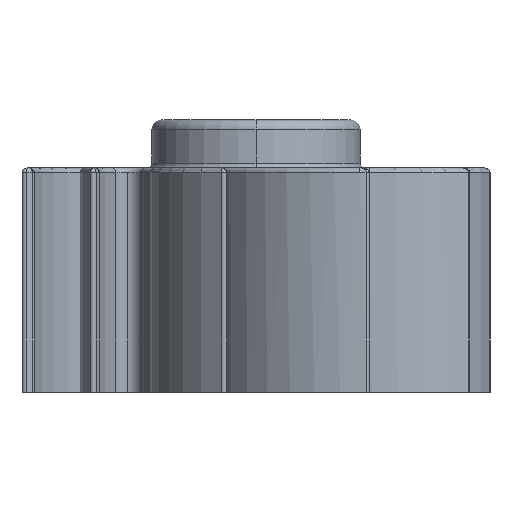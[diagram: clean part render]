
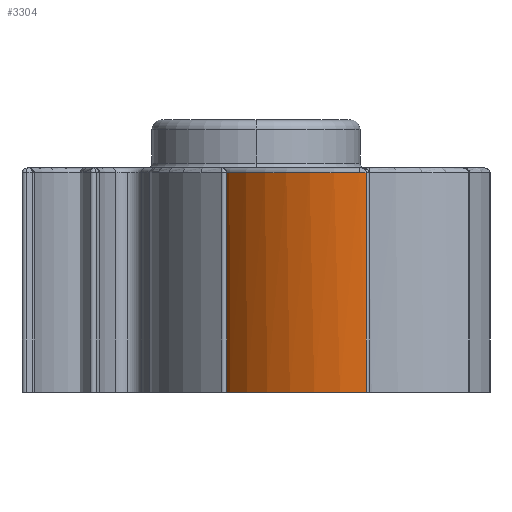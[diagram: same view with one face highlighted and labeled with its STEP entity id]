
A CAD part, left-side view. The second image highlights one B-rep face of the part: STEP entity #3304.
In plain terms, the highlighted cylindrical face has radius 10 mm (diameter 20 mm), a partial arc.
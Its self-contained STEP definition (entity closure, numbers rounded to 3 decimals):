
#279 = CARTESIAN_POINT ( 'NONE',  ( -3.135, -6.447, 12.1 ) ) ;
#316 = VERTEX_POINT ( 'NONE', #2098 ) ;
#417 = AXIS2_PLACEMENT_3D ( 'NONE', #1868, #4000, #6129 ) ;
#704 = ORIENTED_EDGE ( 'NONE', *, *, #2323, .T. ) ;
#722 = AXIS2_PLACEMENT_3D ( 'NONE', #279, #2428, #4556 ) ;
#733 = LINE ( 'NONE', #2350, #5925 ) ;
#966 = VECTOR ( 'NONE', #5935, 1000. ) ;
#1155 = CARTESIAN_POINT ( 'NONE',  ( -3.135, -6.447, -1.6 ) ) ;
#1244 = EDGE_CURVE ( 'NONE', #1836, #3052, #4918, .T. ) ;
#1675 = LINE ( 'NONE', #3801, #966 ) ;
#1836 = VERTEX_POINT ( 'NONE', #2816 ) ;
#1868 = CARTESIAN_POINT ( 'NONE',  ( -3.135, -6.447, 12.1 ) ) ;
#1901 = AXIS2_PLACEMENT_3D ( 'NONE', #4655, #6804, #2015 ) ;
#2015 = DIRECTION ( 'NONE',  ( -1., 0., 0. ) ) ;
#2059 = ORIENTED_EDGE ( 'NONE', *, *, #6162, .T. ) ;
#2098 = CARTESIAN_POINT ( 'NONE',  ( -7.638, 2.482, 12.1 ) ) ;
#2323 = EDGE_CURVE ( 'NONE', #3052, #5105, #733, .T. ) ;
#2350 = CARTESIAN_POINT ( 'NONE',  ( -13.126, -6.881, -1.6 ) ) ;
#2428 = DIRECTION ( 'NONE',  ( 0., 0., -1. ) ) ;
#2816 = CARTESIAN_POINT ( 'NONE',  ( -7.638, 2.482, -1.6 ) ) ;
#2922 = ORIENTED_EDGE ( 'NONE', *, *, #5108, .T. ) ;
#3036 = AXIS2_PLACEMENT_3D ( 'NONE', #1155, #3290, #5434 ) ;
#3052 = VERTEX_POINT ( 'NONE', #6154 ) ;
#3290 = DIRECTION ( 'NONE',  ( 0., 0., 1. ) ) ;
#3304 = ADVANCED_FACE ( 'NONE', ( #3817 ), #5948, .T. ) ;
#3495 = EDGE_LOOP ( 'NONE', ( #704, #2059, #2922, #5181, #6929 ) ) ;
#3747 = CIRCLE ( 'NONE', #722, 10. ) ;
#3801 = CARTESIAN_POINT ( 'NONE',  ( -7.638, 2.482, -1.6 ) ) ;
#3817 = FACE_OUTER_BOUND ( 'NONE', #3495, .T. ) ;
#4000 = DIRECTION ( 'NONE',  ( 0., 0., -1. ) ) ;
#4323 = EDGE_CURVE ( 'NONE', #1836, #316, #1675, .T. ) ;
#4477 = DIRECTION ( 'NONE',  ( 0., 0., 1. ) ) ;
#4556 = DIRECTION ( 'NONE',  ( -1., 0., 0. ) ) ;
#4655 = CARTESIAN_POINT ( 'NONE',  ( -3.135, -6.447, -1.6 ) ) ;
#4918 = CIRCLE ( 'NONE', #1901, 10. ) ;
#5078 = CARTESIAN_POINT ( 'NONE',  ( -13.126, -6.881, 12.1 ) ) ;
#5105 = VERTEX_POINT ( 'NONE', #5078 ) ;
#5108 = EDGE_CURVE ( 'NONE', #5414, #316, #3747, .T. ) ;
#5181 = ORIENTED_EDGE ( 'NONE', *, *, #4323, .F. ) ;
#5414 = VERTEX_POINT ( 'NONE', #6295 ) ;
#5434 = DIRECTION ( 'NONE',  ( 1., 0., 0. ) ) ;
#5925 = VECTOR ( 'NONE', #4477, 1000. ) ;
#5935 = DIRECTION ( 'NONE',  ( 0., 0., 1. ) ) ;
#5948 = CYLINDRICAL_SURFACE ( 'NONE', #3036, 10. ) ;
#6129 = DIRECTION ( 'NONE',  ( -1., 0., 0. ) ) ;
#6154 = CARTESIAN_POINT ( 'NONE',  ( -13.126, -6.881, -1.6 ) ) ;
#6162 = EDGE_CURVE ( 'NONE', #5105, #5414, #6467, .T. ) ;
#6295 = CARTESIAN_POINT ( 'NONE',  ( -13.135, -6.447, 12.1 ) ) ;
#6467 = CIRCLE ( 'NONE', #417, 10. ) ;
#6804 = DIRECTION ( 'NONE',  ( 0., 0., 1. ) ) ;
#6929 = ORIENTED_EDGE ( 'NONE', *, *, #1244, .T. ) ;
